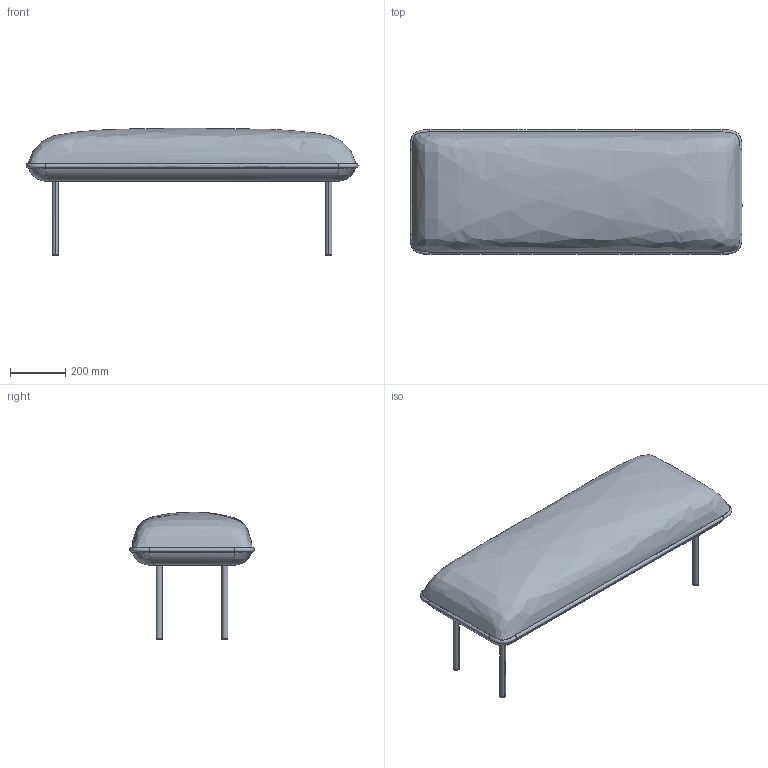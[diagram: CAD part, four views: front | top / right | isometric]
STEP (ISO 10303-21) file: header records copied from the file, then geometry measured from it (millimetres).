
FILE_DESCRIPTION(/* description */ (''),/* implementation_level */ '2;1');
FILE_NAME(/* name */ 'Nakki bench',/* time_stamp */ '2020-04-03T16:57:15+02:00',/* author */ (''),/* organization */ (''),/* preprocessor_version */ 'ST-DEVELOPER v15',/* originating_system */ '',/* authorisation */ '');
FILE_SCHEMA (('AUTOMOTIVE_DESIGN'));
Length unit declared in the file: millimetre
Products named in the file (1): Document
Bounding box: 1200 x 450 x 460.6 mm (x, y, z)
Volume: 81278369.8 mm3; surface area: 1592035.8 mm2
Topology: 10 solids, 10 shells, 74 faces, 144 edges, 88 vertices
Faces by surface type: bspline 74
Entity records: 12215 total; most frequent: CARTESIAN_POINT 10366, B_SPLINE_CURVE_WITH_KNOTS 292, ORIENTED_EDGE 288, PCURVE 288, DEFINITIONAL_REPRESENTATION 288, SURFACE_CURVE 144, EDGE_CURVE 144, VERTEX_POINT 88
